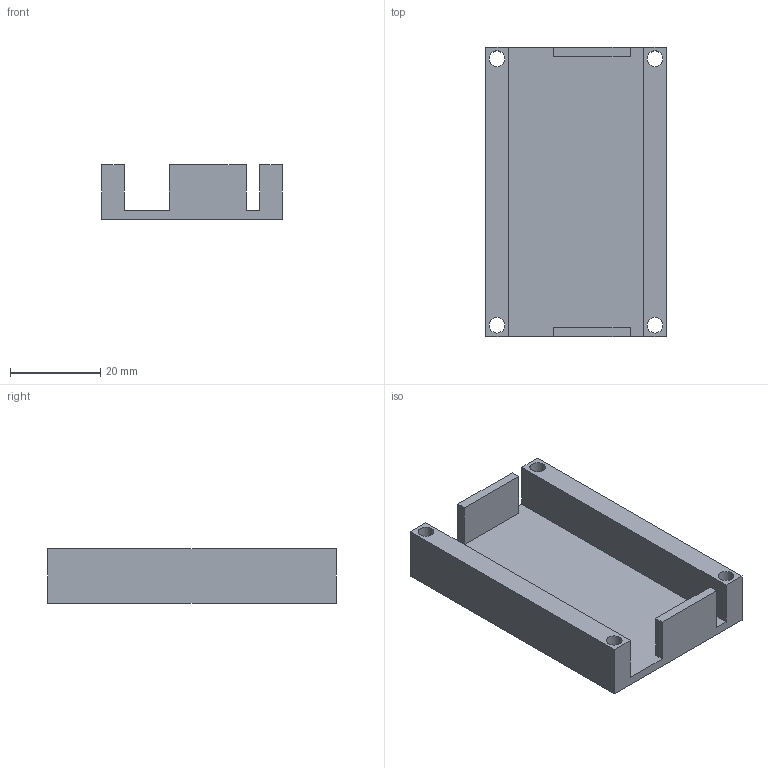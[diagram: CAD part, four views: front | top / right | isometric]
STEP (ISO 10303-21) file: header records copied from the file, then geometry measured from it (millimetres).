
FILE_DESCRIPTION(/* description */ (''),/* implementation_level */ '2;1');
FILE_NAME(/* name */ 'LED_switch v2.step',/* time_stamp */ '2026-04-10T14:22:55+02:00',/* author */ (''),/* organization */ (''),/* preprocessor_version */ 'ST-DEVELOPER v20.1',/* originating_system */ 'Autodesk Translation Framework v14.24.0.0',/* authorisation */ '');
FILE_SCHEMA (('AUTOMOTIVE_DESIGN { 1 0 10303 214 3 1 1 }'));
Length unit declared in the file: millimetre
Products named in the file (1): (Niezapisany)
Bounding box: 40 x 64 x 12 mm (x, y, z)
Volume: 11738.2 mm3; surface area: 9506.8 mm2
Topology: 1 solids, 1 shells, 22 faces, 60 edges, 40 vertices
Faces by surface type: plane 18, cylinder 4
Full cylindrical faces by diameter (mm): 3.5 x4
Entity records: 741 total; most frequent: CARTESIAN_POINT 123, ORIENTED_EDGE 120, DIRECTION 114, EDGE_CURVE 60, LINE 52, VECTOR 52, VERTEX_POINT 40, AXIS2_PLACEMENT_3D 31
